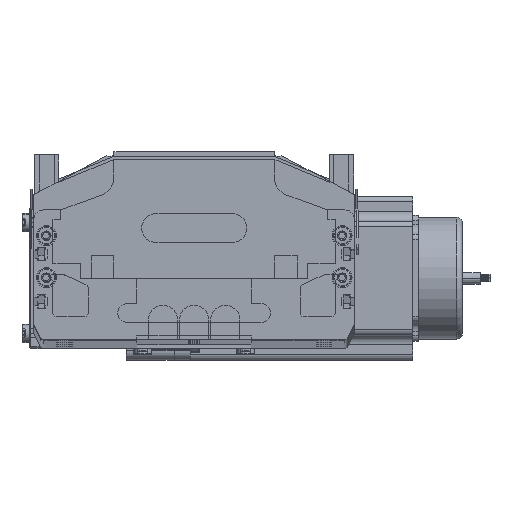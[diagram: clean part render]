
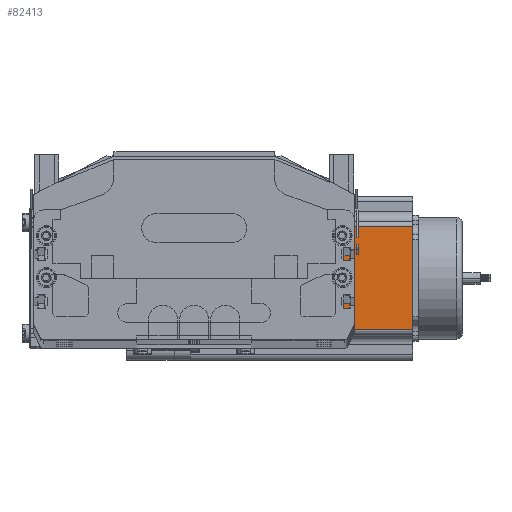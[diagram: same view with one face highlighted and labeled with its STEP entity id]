
A CAD part, top view. The second image highlights one B-rep face of the part: STEP entity #82413.
In plain terms, the highlighted planar face has unit normal (0, 0, 1) as drawn and (0, -1, 0) by its records, which use the part's own axes.
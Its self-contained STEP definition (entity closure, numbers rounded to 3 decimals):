
#44955 = CARTESIAN_POINT ( 'NONE',  ( 16.16, 0., 116.5 ) ) ;
#45106 = DIRECTION ( 'NONE',  ( 1., 0., 0. ) ) ;
#45108 = VECTOR ( 'NONE', #45106, 1000. ) ;
#45110 = CARTESIAN_POINT ( 'NONE',  ( 0., 0., 0. ) ) ;
#45111 = LINE ( 'NONE', #45110, #45108 ) ;
#45163 = PLANE ( 'NONE',  #45233 ) ;
#45174 = CARTESIAN_POINT ( 'NONE',  ( 16.16, 0., 0. ) ) ;
#45230 = DIRECTION ( 'NONE',  ( 0., 0., 1. ) ) ;
#45231 = DIRECTION ( 'NONE',  ( 0., 1., 0. ) ) ;
#45232 = CARTESIAN_POINT ( 'NONE',  ( 0., 0., 116.5 ) ) ;
#45233 = AXIS2_PLACEMENT_3D ( 'NONE', #45232, #45231, #45230 ) ;
#45236 = FACE_OUTER_BOUND ( 'NONE', #82388, .T. ) ;
#45240 = CARTESIAN_POINT ( 'NONE',  ( 69.74, 0., 0. ) ) ;
#45287 = DIRECTION ( 'NONE',  ( 0., 0., -1. ) ) ;
#45288 = VECTOR ( 'NONE', #45287, 1000. ) ;
#45290 = CARTESIAN_POINT ( 'NONE',  ( 16.16, 0., 116.5 ) ) ;
#45295 = LINE ( 'NONE', #45290, #45288 ) ;
#45297 = VECTOR ( 'NONE', #45343, 1000. ) ;
#45300 = CARTESIAN_POINT ( 'NONE',  ( 69.74, 0., 116.5 ) ) ;
#45307 = CARTESIAN_POINT ( 'NONE',  ( 69.74, 0., 116.5 ) ) ;
#45308 = LINE ( 'NONE', #45307, #45297 ) ;
#45338 = DIRECTION ( 'NONE',  ( 1., 0., 0. ) ) ;
#45339 = VECTOR ( 'NONE', #45338, 1000. ) ;
#45340 = CARTESIAN_POINT ( 'NONE',  ( 0., 0., 116.5 ) ) ;
#45342 = LINE ( 'NONE', #45340, #45339 ) ;
#45343 = DIRECTION ( 'NONE',  ( 0., 0., 1. ) ) ;
#82296 = VERTEX_POINT ( 'NONE', #44955 ) ;
#82325 = ORIENTED_EDGE ( 'NONE', *, *, #82456, .T. ) ;
#82353 = EDGE_CURVE ( 'NONE', #82411, #82412, #45111, .T. ) ;
#82388 = EDGE_LOOP ( 'NONE', ( #82470, #82464, #82461, #82325 ) ) ;
#82411 = VERTEX_POINT ( 'NONE', #45174 ) ;
#82412 = VERTEX_POINT ( 'NONE', #45240 ) ;
#82413 = ADVANCED_FACE ( 'NONE', ( #45236 ), #45163, .F. ) ;
#82456 = EDGE_CURVE ( 'NONE', #82296, #82411, #45295, .T. ) ;
#82461 = ORIENTED_EDGE ( 'NONE', *, *, #82465, .F. ) ;
#82462 = EDGE_CURVE ( 'NONE', #82412, #82463, #45308, .T. ) ;
#82463 = VERTEX_POINT ( 'NONE', #45300 ) ;
#82464 = ORIENTED_EDGE ( 'NONE', *, *, #82462, .T. ) ;
#82465 = EDGE_CURVE ( 'NONE', #82296, #82463, #45342, .T. ) ;
#82470 = ORIENTED_EDGE ( 'NONE', *, *, #82353, .T. ) ;
